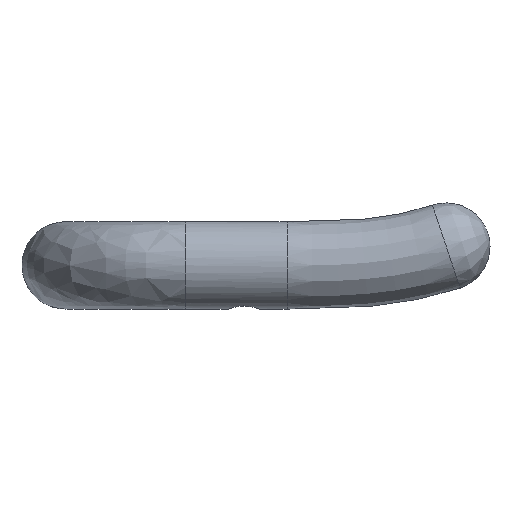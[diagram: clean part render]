
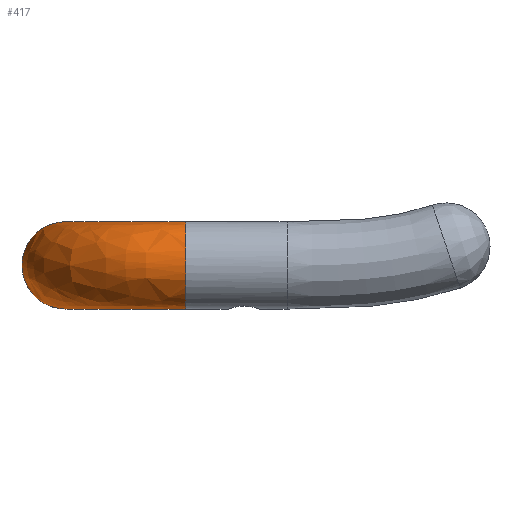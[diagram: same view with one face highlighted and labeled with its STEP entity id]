
A CAD part, front view. The second image highlights one B-rep face of the part: STEP entity #417.
In plain terms, the highlighted free-form (B-spline) face has degree [2, 2] with [3, 5] control points.
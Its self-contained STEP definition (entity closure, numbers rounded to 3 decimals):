
#417=ADVANCED_FACE('',(#835),#6223,.T.);
#835=FACE_OUTER_BOUND('',#1253,.T.);
#1253=EDGE_LOOP('',(#2970,#2971,#2972,#2973));
#2970=ORIENTED_EDGE('',*,*,#3878,.T.);
#2971=ORIENTED_EDGE('',*,*,#3879,.T.);
#2972=ORIENTED_EDGE('',*,*,#3880,.T.);
#2973=ORIENTED_EDGE('',*,*,#3881,.F.);
#3878=EDGE_CURVE('',#5798,#5807,#4472,.T.);
#3879=EDGE_CURVE('',#5807,#5808,#4473,.T.);
#3880=EDGE_CURVE('',#5808,#5799,#4474,.T.);
#3881=EDGE_CURVE('',#5798,#5799,#4475,.T.);
#4472=TRIMMED_CURVE($,#5031,(#15902),(#15903),.T.,.CARTESIAN.);
#4473=TRIMMED_CURVE($,#5032,(#15905),(#15906),.T.,.CARTESIAN.);
#4474=TRIMMED_CURVE($,#5033,(#15908),(#15909),.T.,.CARTESIAN.);
#4475=TRIMMED_CURVE($,#5034,(#15911),(#15912),.T.,.CARTESIAN.);
#5031=CIRCLE('',#6975,16.472);
#5032=CIRCLE('',#6976,6.);
#5033=CIRCLE('',#6977,16.472);
#5034=CIRCLE('',#6978,6.);
#5798=VERTEX_POINT('',#13632);
#5799=VERTEX_POINT('',#13633);
#5807=VERTEX_POINT('',#13641);
#5808=VERTEX_POINT('',#13642);
#6223=(
BOUNDED_SURFACE()
B_SPLINE_SURFACE(2,2,((#12840,#12841,#12842,#12843,#12844),(#12845,#12846,
#12847,#12848,#12849),(#12850,#12851,#12852,#12853,#12854)),
 .UNSPECIFIED.,.F.,.F.,.F.)
B_SPLINE_SURFACE_WITH_KNOTS((3,3),(3,2,3),(0.,35.299),(18.85,
28.274,37.699),.UNSPECIFIED.)
GEOMETRIC_REPRESENTATION_ITEM()
RATIONAL_B_SPLINE_SURFACE(((1.,0.707,1.,0.707,1.),
(0.707,0.5,0.707,0.5,
0.707),(1.,0.707,1.,0.707,1.)))
REPRESENTATION_ITEM('')
SURFACE()
);
#6975=AXIS2_PLACEMENT_3D($,#15901,#8190,#8191);
#6976=AXIS2_PLACEMENT_3D($,#15904,#8192,#8193);
#6977=AXIS2_PLACEMENT_3D($,#15907,#8194,#8195);
#6978=AXIS2_PLACEMENT_3D($,#15910,#8196,#8197);
#8190=DIRECTION('',(0.,0.,-1.));
#8191=DIRECTION('',(0.,-1.,0.));
#8192=DIRECTION('',(0.,-1.,0.));
#8193=DIRECTION('',(0.,0.,1.));
#8194=DIRECTION('',(0.,0.,1.));
#8195=DIRECTION('',(-1.,0.,0.));
#8196=DIRECTION('',(1.,0.,0.));
#8197=DIRECTION('',(0.,0.,1.));
#12840=CARTESIAN_POINT('',(-9.653,-37.501,4.711));
#12841=CARTESIAN_POINT('',(-9.653,-43.501,4.711));
#12842=CARTESIAN_POINT('',(-9.653,-43.501,-1.289));
#12843=CARTESIAN_POINT('',(-9.653,-43.501,-7.289));
#12844=CARTESIAN_POINT('',(-9.653,-37.501,-7.289));
#12845=CARTESIAN_POINT('',(-26.125,-37.501,4.711));
#12846=CARTESIAN_POINT('',(-32.125,-43.501,4.711));
#12847=CARTESIAN_POINT('',(-32.125,-43.501,-1.289));
#12848=CARTESIAN_POINT('',(-32.125,-43.501,-7.289));
#12849=CARTESIAN_POINT('',(-26.125,-37.501,-7.289));
#12850=CARTESIAN_POINT('',(-26.125,-21.029,4.711));
#12851=CARTESIAN_POINT('',(-32.125,-21.029,4.711));
#12852=CARTESIAN_POINT('',(-32.125,-21.029,-1.289));
#12853=CARTESIAN_POINT('',(-32.125,-21.029,-7.289));
#12854=CARTESIAN_POINT('',(-26.125,-21.029,-7.289));
#13632=CARTESIAN_POINT('',(-9.653,-37.501,4.711));
#13633=CARTESIAN_POINT('',(-9.653,-37.501,-7.289));
#13641=CARTESIAN_POINT('',(-26.125,-21.029,4.711));
#13642=CARTESIAN_POINT('',(-26.125,-21.029,-7.289));
#15901=CARTESIAN_POINT('',(-9.653,-21.029,4.711));
#15902=CARTESIAN_POINT('',(-9.653,-37.501,4.711));
#15903=CARTESIAN_POINT('',(-26.125,-21.029,4.711));
#15904=CARTESIAN_POINT('',(-26.125,-21.029,-1.289));
#15905=CARTESIAN_POINT('',(-26.125,-21.029,4.711));
#15906=CARTESIAN_POINT('',(-26.125,-21.029,-7.289));
#15907=CARTESIAN_POINT('',(-9.653,-21.029,-7.289));
#15908=CARTESIAN_POINT('',(-26.125,-21.029,-7.289));
#15909=CARTESIAN_POINT('',(-9.653,-37.501,-7.289));
#15910=CARTESIAN_POINT('',(-9.653,-37.501,-1.289));
#15911=CARTESIAN_POINT('',(-9.653,-37.501,4.711));
#15912=CARTESIAN_POINT('',(-9.653,-37.501,-7.289));
